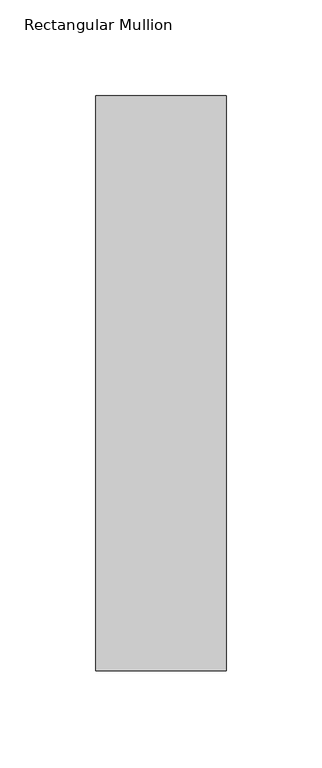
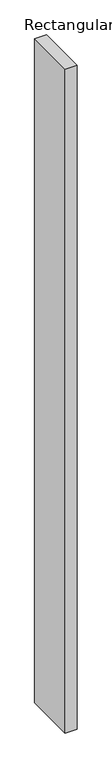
"""IFC4 building model written with IfcOpenShell, lengths in millimetres: member geometry, Rectangular Mullion : DucoSun Cubic Design louvre 300."""

from ifc_helpers import new_model, si_unit, frame, origin, place, context, project, spatial, polyline, outline, extrude, source, transform, mapped, element, save


def rectangular_mullion_94b31103(model_context):
    return source(origin(), model_context, "Body", "SweptSolid", [
        extrude(outline(polyline([(-68.0, -300.0), (-68.0, 0.0), (0.0, 0.0), (0.0, -300.0), (-68.0, -300.0)])), frame((0.0, 0.0, -4000.0), z_axis=(0.0, 0.0, 1.0), x_axis=(1.0, 0.0, 0.0)), (0.0, 0.0, 1.0), 4000.0),
    ])


if __name__ == "__main__":
    model = new_model("IFC4")
    model_context = context("Model", 3, world=origin())
    ifc_project = project(units=[si_unit("LENGTHUNIT", "METRE", prefix="MILLI")], contexts=[model_context])
    site = spatial("IfcSite", under=ifc_project)
    building = spatial("IfcBuilding", under=site)
    placement = place(None, origin())
    rectangular_mullion_shape = rectangular_mullion_94b31103(model_context)
    element("IfcMember", 1, ObjectType="Rectangular Mullion : DucoSun Cubic Design louvre 300", at=placement, inside=building, context=model_context, shape_type="MappedRepresentation", body=[
        mapped(rectangular_mullion_shape, transform((0.0, 0.0, 0.0), x_axis=(1.0, 0.0, 0.0), y_axis=(0.0, 1.0, 0.0), z_axis=(0.0, 0.0, 1.0))),
    ])
    save(model, "model.ifc")
